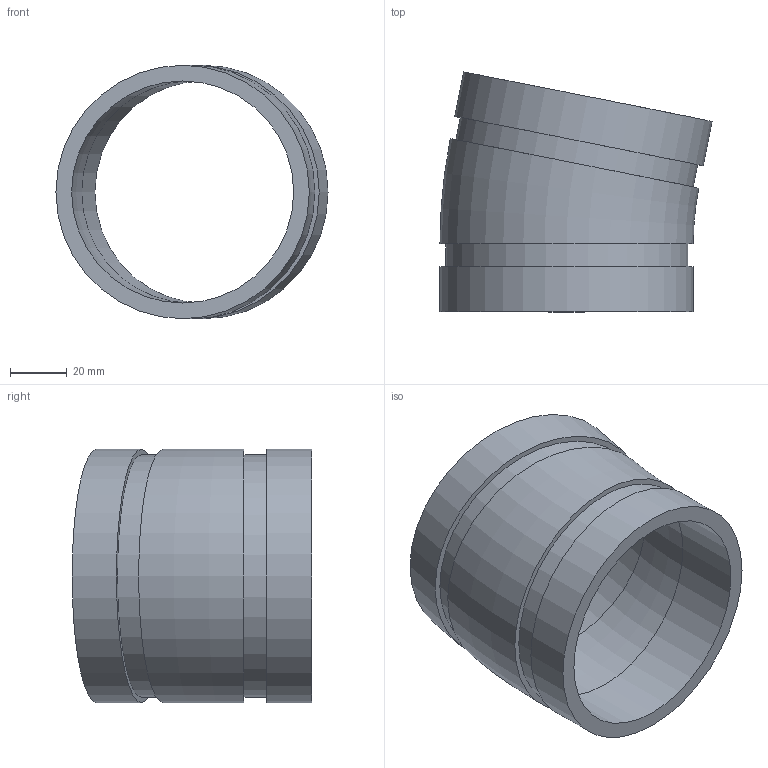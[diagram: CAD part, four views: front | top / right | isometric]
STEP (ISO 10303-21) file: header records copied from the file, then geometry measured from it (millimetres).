
FILE_DESCRIPTION(/* description */ ('VIC 11-1/4 DEG. ELBOW No 13','CAx-IF Rec.Pracs.---Representation and Presentation of Product Manufacturing Information (PMI)---4.0---2014-10-13'),/* implementation_level */ '2;1');
FILE_NAME(/* name */ 'C:\Users\kkamble\AppData\Roaming\Autodesk\ApplicationPlugins\Back Up\Victaulic_IPS_Elbow 11.25 Deg_No 13 (OGS)\Victaulic_IPS_Elbow 11.25 Deg_No 13 (OGS)_3 (80).stp',/* time_stamp */ '2020-07-24T08:09:01+06:00',/* author */ ('CONSTRUCTION PIPING SERVICES'),/* organization */ ('Victaulic'),/* preprocessor_version */ 'ST-DEVELOPER v17.2',/* originating_system */ 'Autodesk Inventor 2019',/* authorisation */ '');
FILE_SCHEMA (('AP242_MANAGED_MODEL_BASED_3D_ENGINEERING_MIM_LF { 1 0 10303 442 1 1 4 }'));
Length unit declared in the file: inch
Products named in the file (1): 013-03.0
Bounding box: 95.48 x 84.14 x 88.9 mm (x, y, z)
Volume: 100820.3 mm3; surface area: 44730 mm2
Topology: 1 solids, 1 shells, 14 faces, 32 edges, 24 vertices
Faces by surface type: plane 6, cylinder 6, torus 2
Full cylindrical faces by diameter (mm): 77.927 x2, 84.938 x2, 88.9 x2
Entity records: 487 total; most frequent: DIRECTION 88, CARTESIAN_POINT 71, ORIENTED_EDGE 64, AXIS2_PLACEMENT_3D 41, EDGE_CURVE 32, CIRCLE 26, VERTEX_POINT 24, EDGE_LOOP 20
